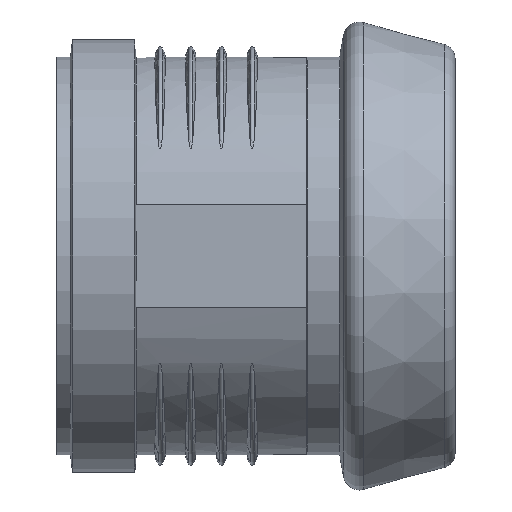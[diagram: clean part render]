
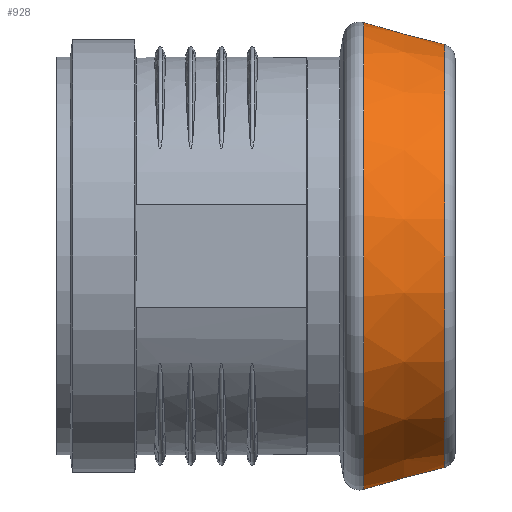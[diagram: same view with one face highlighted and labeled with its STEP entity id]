
A CAD part, front view. The second image highlights one B-rep face of the part: STEP entity #928.
In plain terms, the highlighted conical face has half-angle 15.25 degrees and reference radius 54.363 mm.
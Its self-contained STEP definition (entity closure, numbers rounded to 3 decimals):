
#107=CONICAL_SURFACE($,#1001,54.363,15.25);
#162=FACE_BOUND($,#267,.T.);
#204=FACE_OUTER_BOUND($,#266,.T.);
#266=EDGE_LOOP($,(#624));
#267=EDGE_LOOP($,(#625));
#358=CIRCLE($,#1000,57.049);
#359=CIRCLE($,#1002,51.678);
#406=VERTEX_POINT($,#1362);
#407=VERTEX_POINT($,#1365);
#500=EDGE_CURVE($,#406,#406,#358,.T.);
#501=EDGE_CURVE($,#407,#407,#359,.T.);
#624=ORIENTED_EDGE($,*,*,#501,.F.);
#625=ORIENTED_EDGE($,*,*,#500,.T.);
#928=ADVANCED_FACE($,(#204,#162),#107,.T.);
#1000=AXIS2_PLACEMENT_3D($,#1363,#1127,#1128);
#1001=AXIS2_PLACEMENT_3D($,#1364,#1129,#1130);
#1002=AXIS2_PLACEMENT_3D($,#1366,#1131,#1132);
#1127=DIRECTION('center_axis',(1.,0.,0.));
#1128=DIRECTION('ref_axis',(0.,1.,0.));
#1129=DIRECTION('center_axis',(-1.,0.,0.));
#1130=DIRECTION('ref_axis',(0.,1.,0.));
#1131=DIRECTION('center_axis',(1.,0.,0.));
#1132=DIRECTION('ref_axis',(0.,1.,0.));
#1362=CARTESIAN_POINT('',(14.018,57.049,0.));
#1363=CARTESIAN_POINT('Origin',(14.018,0.,0.));
#1364=CARTESIAN_POINT('Origin',(23.869,0.,0.));
#1365=CARTESIAN_POINT('',(33.721,51.678,0.));
#1366=CARTESIAN_POINT('Origin',(33.721,0.,0.));
